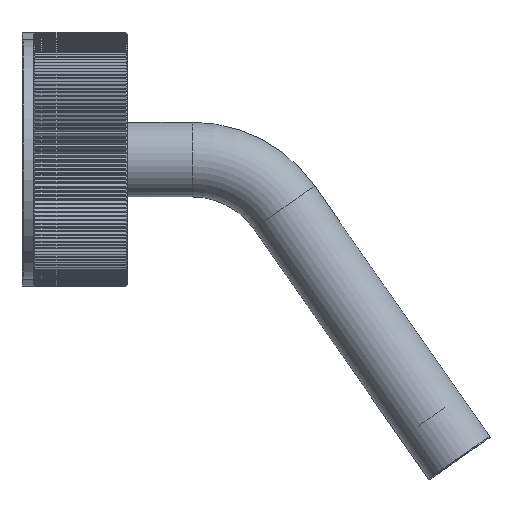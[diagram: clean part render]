
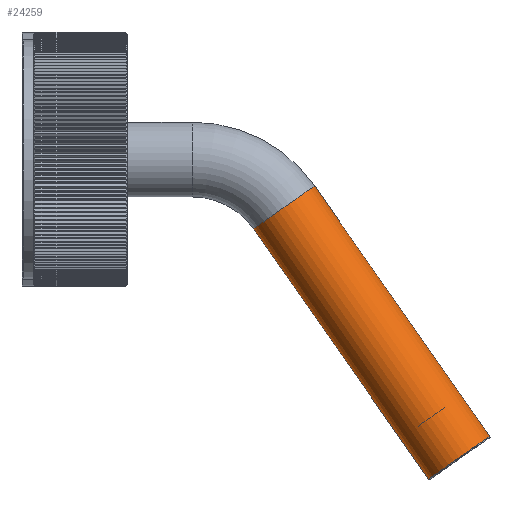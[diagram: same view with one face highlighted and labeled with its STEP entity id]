
A CAD part, front view. The second image highlights one B-rep face of the part: STEP entity #24259.
In plain terms, the highlighted cylindrical face has radius 10 mm (diameter 20 mm), a full revolution.
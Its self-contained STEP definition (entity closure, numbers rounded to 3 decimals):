
#3609=ORIENTED_EDGE('',*,*,#8645,.T.);
#3610=ORIENTED_EDGE('',*,*,#8644,.T.);
#8644=EDGE_CURVE('',#11169,#11169,#12597,.F.);
#8645=EDGE_CURVE('',#11170,#11170,#12598,.T.);
#11169=VERTEX_POINT('',#32916);
#11170=VERTEX_POINT('',#32919);
#12597=CIRCLE('',#25539,10.);
#12598=CIRCLE('',#25541,10.);
#13512=EDGE_LOOP('',(#3609));
#13513=EDGE_LOOP('',(#3610));
#14825=FACE_BOUND('',#13512,.T.);
#14826=FACE_BOUND('',#13513,.T.);
#16107=CYLINDRICAL_SURFACE('',#25540,10.);
#24259=ADVANCED_FACE('',(#14825,#14826),#16107,.T.);
#25539=AXIS2_PLACEMENT_3D('',#32915,#27752,#27753);
#25540=AXIS2_PLACEMENT_3D('',#32917,#27754,#27755);
#25541=AXIS2_PLACEMENT_3D('',#32918,#27756,#27757);
#27752=DIRECTION('',(0.819,-0.574,0.));
#27753=DIRECTION('',(-0.574,-0.819,0.));
#27754=DIRECTION('',(0.819,-0.574,0.));
#27755=DIRECTION('',(0.574,0.819,0.));
#27756=DIRECTION('',(0.819,-0.574,0.));
#27757=DIRECTION('',(0.574,0.819,0.));
#32915=CARTESIAN_POINT('',(-12.793,64.575,0.));
#32916=CARTESIAN_POINT('',(-18.528,56.383,0.));
#32917=CARTESIAN_POINT('',(-79.963,111.608,0.));
#32918=CARTESIAN_POINT('',(-79.717,111.436,0.));
#32919=CARTESIAN_POINT('',(-73.982,119.627,0.));
